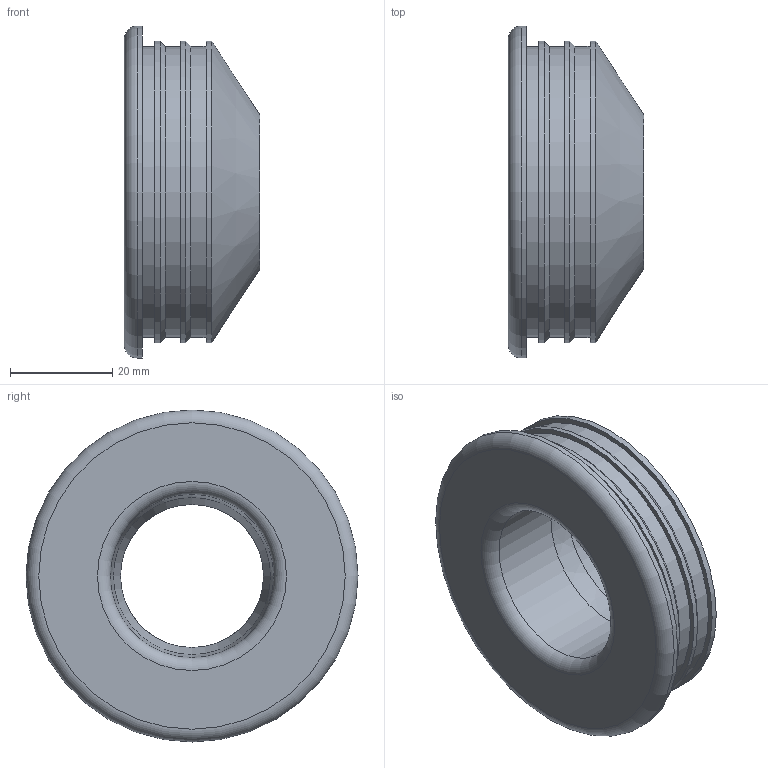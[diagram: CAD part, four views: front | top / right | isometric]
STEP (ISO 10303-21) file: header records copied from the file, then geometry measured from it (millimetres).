
FILE_DESCRIPTION(/* description */ (''),/* implementation_level */ '2;1');
FILE_NAME(/* name */ 'H:\Geberit-Teile\Export\Manschetten ART\stp\153564.stp',/* time_stamp */ '2014-05-12T13:18:54+02:00',/* author */ ('seihe2'),/* organization */ (''),/* preprocessor_version */ 'ST-DEVELOPER v15.2',/* originating_system */ 'Autodesk Inventor 2014',/* authorisation */ '');
FILE_SCHEMA (('AUTOMOTIVE_DESIGN { 1 0 10303 214 3 1 1 }'));
Length unit declared in the file: millimetre
Products named in the file (1): 153564
Bounding box: 26.5 x 65 x 65 mm (x, y, z)
Volume: 41383.6 mm3; surface area: 11959.5 mm2
Topology: 1 solids, 1 shells, 22 faces, 40 edges, 24 vertices
Faces by surface type: cylinder 8, plane 6, cone 4, torus 3, bspline 1
Full cylindrical faces by diameter (mm): 32 x1, 57 x3, 59 x3, 65 x1
Entity records: 537 total; most frequent: CARTESIAN_POINT 100, DIRECTION 92, ORIENTED_EDGE 50, AXIS2_PLACEMENT_3D 46, EDGE_LOOP 43, FACE_BOUND 25, EDGE_CURVE 25, CIRCLE 24
